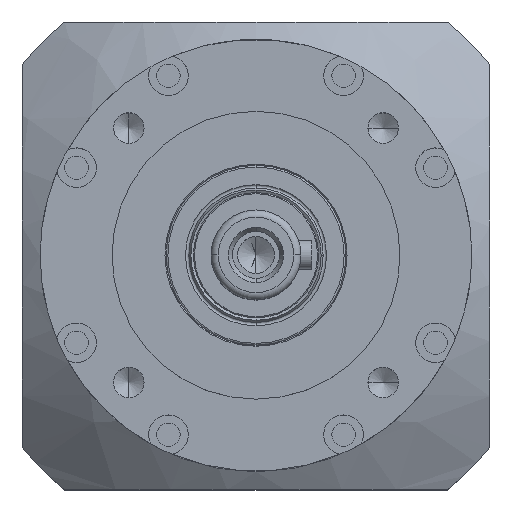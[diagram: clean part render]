
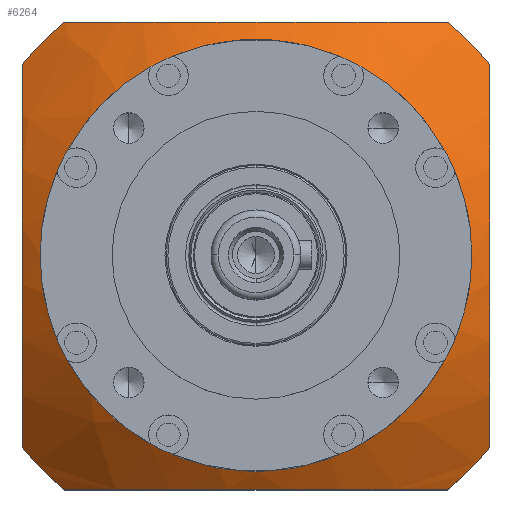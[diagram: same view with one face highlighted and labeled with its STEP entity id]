
A CAD part, top view. The second image highlights one B-rep face of the part: STEP entity #6264.
In plain terms, the highlighted spherical face has radius 120 mm.
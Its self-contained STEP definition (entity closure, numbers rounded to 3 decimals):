
#4 = ORIENTED_EDGE ( 'NONE', *, *, #3850, .T. ) ;
#235 = DIRECTION ( 'NONE',  ( 0., 0., 1. ) ) ;
#303 = DIRECTION ( 'NONE',  ( 0., -1., 0. ) ) ;
#354 = AXIS2_PLACEMENT_3D ( 'NONE', #2684, #14021, #4338 ) ;
#375 = CARTESIAN_POINT ( 'NONE',  ( 0., 65., -131.923 ) ) ;
#412 = CIRCLE ( 'NONE', #20617, 84. ) ;
#757 = DIRECTION ( 'NONE',  ( 0., 0., 1. ) ) ;
#1576 = VERTEX_POINT ( 'NONE', #15095 ) ;
#1963 = AXIS2_PLACEMENT_3D ( 'NONE', #18040, #8332, #19687 ) ;
#1990 = VERTEX_POINT ( 'NONE', #19700 ) ;
#2375 = VERTEX_POINT ( 'NONE', #3014 ) ;
#2513 = CARTESIAN_POINT ( 'NONE',  ( 0., 0., -46.226 ) ) ;
#2672 = VERTEX_POINT ( 'NONE', #17317 ) ;
#2683 = CARTESIAN_POINT ( 'NONE',  ( 0., 0., -131.923 ) ) ;
#2684 = CARTESIAN_POINT ( 'NONE',  ( 0., 0., -28. ) ) ;
#3014 = CARTESIAN_POINT ( 'NONE',  ( 65., -53.207, -46.226 ) ) ;
#3052 = CARTESIAN_POINT ( 'NONE',  ( 65., 53.207, -46.226 ) ) ;
#3144 = FACE_OUTER_BOUND ( 'NONE', #5797, .T. ) ;
#3850 = EDGE_CURVE ( 'NONE', #7835, #1990, #7030, .T. ) ;
#4057 = CARTESIAN_POINT ( 'NONE',  ( 60., 0., -28. ) ) ;
#4142 = DIRECTION ( 'NONE',  ( 1., 0., 0. ) ) ;
#4338 = DIRECTION ( 'NONE',  ( 1., 0., 0. ) ) ;
#4541 = EDGE_CURVE ( 'NONE', #17013, #2672, #13329, .T. ) ;
#5021 = EDGE_CURVE ( 'NONE', #1576, #17013, #12568, .T. ) ;
#5383 = EDGE_CURVE ( 'NONE', #1990, #12351, #412, .T. ) ;
#5708 = AXIS2_PLACEMENT_3D ( 'NONE', #18552, #8820, #20176 ) ;
#5797 = EDGE_LOOP ( 'NONE', ( #15659, #8507, #11850, #12975, #11483, #13816, #15811, #4 ) ) ;
#6157 = VERTEX_POINT ( 'NONE', #4057 ) ;
#6194 = AXIS2_PLACEMENT_3D ( 'NONE', #9058, #20412, #10681 ) ;
#6264 = ADVANCED_FACE ( 'NONE', ( #11255, #3144 ), #7471, .T. ) ;
#6295 = EDGE_CURVE ( 'NONE', #12351, #1576, #19394, .T. ) ;
#6763 = CARTESIAN_POINT ( 'NONE',  ( -60., 0., -28. ) ) ;
#7030 = CIRCLE ( 'NONE', #8571, 100.871 ) ;
#7471 = SPHERICAL_SURFACE ( 'NONE', #18321, 120. ) ;
#7660 = CARTESIAN_POINT ( 'NONE',  ( -65., 0., -131.923 ) ) ;
#7787 = EDGE_CURVE ( 'NONE', #15167, #7835, #8383, .T. ) ;
#7835 = VERTEX_POINT ( 'NONE', #9309 ) ;
#8332 = DIRECTION ( 'NONE',  ( -1., 0., 0. ) ) ;
#8383 = CIRCLE ( 'NONE', #18478, 84. ) ;
#8507 = ORIENTED_EDGE ( 'NONE', *, *, #6295, .T. ) ;
#8571 = AXIS2_PLACEMENT_3D ( 'NONE', #375, #303, #235 ) ;
#8579 = EDGE_LOOP ( 'NONE', ( #18604, #18820 ) ) ;
#8820 = DIRECTION ( 'NONE',  ( 0., 0., 1. ) ) ;
#9058 = CARTESIAN_POINT ( 'NONE',  ( 0., -65., -131.923 ) ) ;
#9082 = CIRCLE ( 'NONE', #1963, 100.871 ) ;
#9124 = CARTESIAN_POINT ( 'NONE',  ( 0., 0., -46.226 ) ) ;
#9292 = DIRECTION ( 'NONE',  ( 0., 0., -1. ) ) ;
#9309 = CARTESIAN_POINT ( 'NONE',  ( 53.207, 65., -46.226 ) ) ;
#9437 = CARTESIAN_POINT ( 'NONE',  ( 0., 0., -46.226 ) ) ;
#9810 = CIRCLE ( 'NONE', #354, 60. ) ;
#10039 = CIRCLE ( 'NONE', #16191, 84. ) ;
#10150 = AXIS2_PLACEMENT_3D ( 'NONE', #10444, #757, #12064 ) ;
#10444 = CARTESIAN_POINT ( 'NONE',  ( 0., 0., -46.226 ) ) ;
#10489 = EDGE_CURVE ( 'NONE', #2375, #15167, #9082, .T. ) ;
#10681 = DIRECTION ( 'NONE',  ( 0., 0., 1. ) ) ;
#10739 = DIRECTION ( 'NONE',  ( 1., 0., 0. ) ) ;
#10912 = VERTEX_POINT ( 'NONE', #6763 ) ;
#11035 = DIRECTION ( 'NONE',  ( 1., 0., 0. ) ) ;
#11255 = FACE_BOUND ( 'NONE', #8579, .T. ) ;
#11483 = ORIENTED_EDGE ( 'NONE', *, *, #18679, .T. ) ;
#11844 = EDGE_CURVE ( 'NONE', #10912, #6157, #9810, .T. ) ;
#11850 = ORIENTED_EDGE ( 'NONE', *, *, #5021, .T. ) ;
#12064 = DIRECTION ( 'NONE',  ( 1., 0., 0. ) ) ;
#12351 = VERTEX_POINT ( 'NONE', #17272 ) ;
#12568 = CIRCLE ( 'NONE', #10150, 84. ) ;
#12975 = ORIENTED_EDGE ( 'NONE', *, *, #4541, .T. ) ;
#13329 = CIRCLE ( 'NONE', #6194, 100.871 ) ;
#13816 = ORIENTED_EDGE ( 'NONE', *, *, #10489, .T. ) ;
#13833 = DIRECTION ( 'NONE',  ( 0., 0., 1. ) ) ;
#14021 = DIRECTION ( 'NONE',  ( 0., 0., 1. ) ) ;
#14452 = CARTESIAN_POINT ( 'NONE',  ( -53.207, -65., -46.226 ) ) ;
#15095 = CARTESIAN_POINT ( 'NONE',  ( -65., -53.207, -46.226 ) ) ;
#15167 = VERTEX_POINT ( 'NONE', #3052 ) ;
#15659 = ORIENTED_EDGE ( 'NONE', *, *, #5383, .T. ) ;
#15811 = ORIENTED_EDGE ( 'NONE', *, *, #7787, .T. ) ;
#16191 = AXIS2_PLACEMENT_3D ( 'NONE', #9124, #20468, #10739 ) ;
#16303 = EDGE_CURVE ( 'NONE', #6157, #10912, #16904, .T. ) ;
#16904 = CIRCLE ( 'NONE', #5708, 60. ) ;
#17013 = VERTEX_POINT ( 'NONE', #14452 ) ;
#17272 = CARTESIAN_POINT ( 'NONE',  ( -65., 53.207, -46.226 ) ) ;
#17317 = CARTESIAN_POINT ( 'NONE',  ( 53.207, -65., -46.226 ) ) ;
#18040 = CARTESIAN_POINT ( 'NONE',  ( 65., 0., -131.923 ) ) ;
#18321 = AXIS2_PLACEMENT_3D ( 'NONE', #2683, #20431, #18950 ) ;
#18478 = AXIS2_PLACEMENT_3D ( 'NONE', #2513, #13833, #4142 ) ;
#18552 = CARTESIAN_POINT ( 'NONE',  ( 0., 0., -28. ) ) ;
#18604 = ORIENTED_EDGE ( 'NONE', *, *, #16303, .F. ) ;
#18679 = EDGE_CURVE ( 'NONE', #2672, #2375, #10039, .T. ) ;
#18820 = ORIENTED_EDGE ( 'NONE', *, *, #11844, .F. ) ;
#18950 = DIRECTION ( 'NONE',  ( -0.611, 0., 0.792 ) ) ;
#19024 = DIRECTION ( 'NONE',  ( 1., 0., 0. ) ) ;
#19394 = CIRCLE ( 'NONE', #19404, 100.871 ) ;
#19404 = AXIS2_PLACEMENT_3D ( 'NONE', #7660, #19024, #9292 ) ;
#19687 = DIRECTION ( 'NONE',  ( 0., 0., 1. ) ) ;
#19700 = CARTESIAN_POINT ( 'NONE',  ( -53.207, 65., -46.226 ) ) ;
#20176 = DIRECTION ( 'NONE',  ( 1., 0., 0. ) ) ;
#20412 = DIRECTION ( 'NONE',  ( 0., 1., 0. ) ) ;
#20431 = DIRECTION ( 'NONE',  ( 0.792, 0., 0.611 ) ) ;
#20468 = DIRECTION ( 'NONE',  ( 0., 0., 1. ) ) ;
#20617 = AXIS2_PLACEMENT_3D ( 'NONE', #9437, #20791, #11035 ) ;
#20791 = DIRECTION ( 'NONE',  ( 0., 0., 1. ) ) ;
